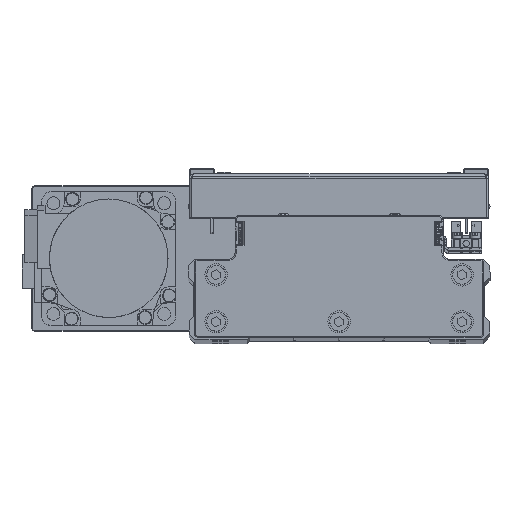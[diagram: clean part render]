
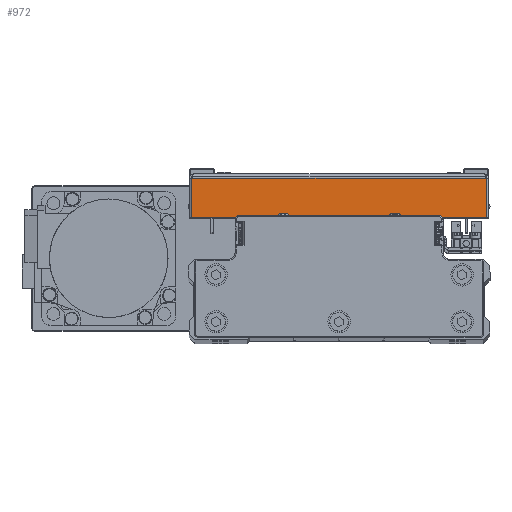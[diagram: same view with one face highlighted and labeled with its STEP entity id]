
A CAD part, top view. The second image highlights one B-rep face of the part: STEP entity #972.
In plain terms, the highlighted planar face has unit normal (0, 0, 1) as drawn and (1, 0, 0) by its records, which use the part's own axes.
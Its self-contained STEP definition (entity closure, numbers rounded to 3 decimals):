
#705 = DIRECTION ( 'NONE',  ( 0., 1., 0. ) ) ;
#972 = ADVANCED_FACE ( 'NONE', ( #12432 ), #26175, .F. ) ;
#1183 = ORIENTED_EDGE ( 'NONE', *, *, #30512, .T. ) ;
#1605 = DIRECTION ( 'NONE',  ( 0., 1., 0. ) ) ;
#1941 = VERTEX_POINT ( 'NONE', #10856 ) ;
#2523 = CARTESIAN_POINT ( 'NONE',  ( 100., 18.5, 0. ) ) ;
#3705 = EDGE_CURVE ( 'NONE', #32714, #35008, #17870, .T. ) ;
#7225 = EDGE_CURVE ( 'NONE', #32714, #17223, #7892, .T. ) ;
#7892 = LINE ( 'NONE', #21631, #29347 ) ;
#9051 = DIRECTION ( 'NONE',  ( -1., 0., 0. ) ) ;
#9656 = AXIS2_PLACEMENT_3D ( 'NONE', #39904, #9051, #22792 ) ;
#10714 = CARTESIAN_POINT ( 'NONE',  ( 100., 1., 65.929 ) ) ;
#10856 = CARTESIAN_POINT ( 'NONE',  ( 100., 18.5, 65.929 ) ) ;
#12432 = FACE_OUTER_BOUND ( 'NONE', #14718, .T. ) ;
#13770 = VECTOR ( 'NONE', #1605, 1000. ) ;
#14718 = EDGE_LOOP ( 'NONE', ( #37334, #26897, #1183, #27862 ) ) ;
#14723 = VECTOR ( 'NONE', #705, 1000. ) ;
#16294 = DIRECTION ( 'NONE',  ( 0., 0., 1. ) ) ;
#17223 = VERTEX_POINT ( 'NONE', #10714 ) ;
#17870 = LINE ( 'NONE', #31595, #14723 ) ;
#18758 = LINE ( 'NONE', #32481, #13770 ) ;
#19404 = VECTOR ( 'NONE', #16294, 1000. ) ;
#21631 = CARTESIAN_POINT ( 'NONE',  ( 100., 1., 67. ) ) ;
#22792 = DIRECTION ( 'NONE',  ( 0., -1., 0. ) ) ;
#25996 = CARTESIAN_POINT ( 'NONE',  ( 100., 18.5, -65.929 ) ) ;
#26175 = PLANE ( 'NONE',  #9656 ) ;
#26897 = ORIENTED_EDGE ( 'NONE', *, *, #3705, .T. ) ;
#27000 = CARTESIAN_POINT ( 'NONE',  ( 100., 1., -65.929 ) ) ;
#27862 = ORIENTED_EDGE ( 'NONE', *, *, #43769, .F. ) ;
#29347 = VECTOR ( 'NONE', #35370, 1000. ) ;
#30512 = EDGE_CURVE ( 'NONE', #35008, #1941, #33403, .T. ) ;
#31595 = CARTESIAN_POINT ( 'NONE',  ( 100., 0., -65.929 ) ) ;
#32481 = CARTESIAN_POINT ( 'NONE',  ( 100., 0., 65.929 ) ) ;
#32714 = VERTEX_POINT ( 'NONE', #27000 ) ;
#33403 = LINE ( 'NONE', #2523, #19404 ) ;
#35008 = VERTEX_POINT ( 'NONE', #25996 ) ;
#35370 = DIRECTION ( 'NONE',  ( 0., 0., 1. ) ) ;
#37334 = ORIENTED_EDGE ( 'NONE', *, *, #7225, .F. ) ;
#39904 = CARTESIAN_POINT ( 'NONE',  ( 100., 0., 0. ) ) ;
#43769 = EDGE_CURVE ( 'NONE', #17223, #1941, #18758, .T. ) ;
